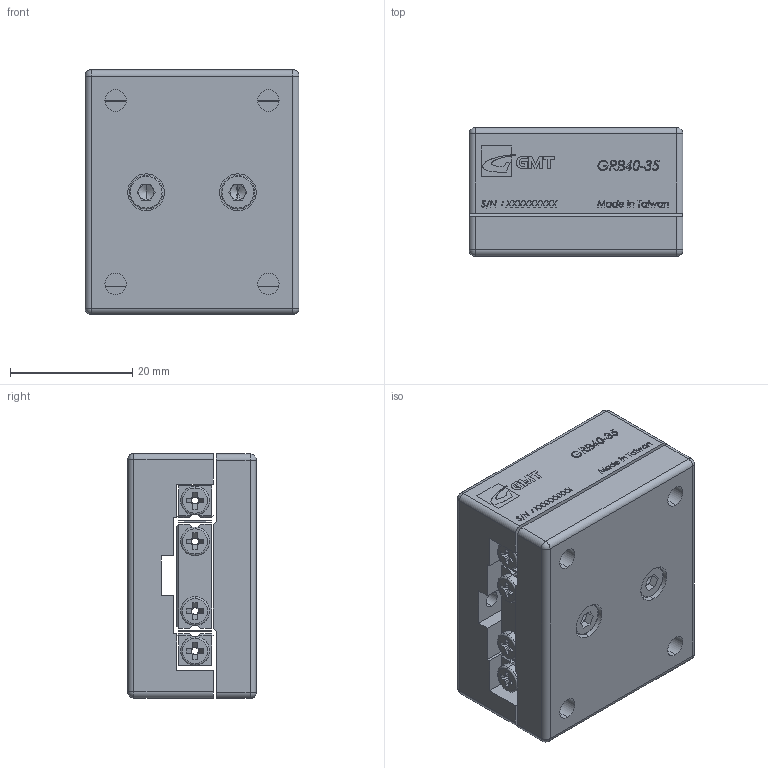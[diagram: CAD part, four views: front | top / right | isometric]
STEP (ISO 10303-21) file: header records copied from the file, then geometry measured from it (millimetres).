
FILE_DESCRIPTION (( 'STEP AP203' ), '1' );
FILE_NAME ('GRB40-35.STEP', '2012-10-19T05:13:40', ( '123' ), ( '' ), 'SwSTEP 2.0', 'SolidWorks 2012', '' );
FILE_SCHEMA (( 'CONFIG_CONTROL_DESIGN' ));
Length unit declared in the file: millimetre
Products named in the file (1): GRB40-35
Bounding box: 35 x 21 x 40.07 mm (x, y, z)
Surface area: 11431.5 mm2 (no closed solid volume)
Topology: 0 solids, 58 shells, 537 faces, 2422 edges, 1922 vertices
Faces by surface type: plane 354, cylinder 72, cone 48, torus 44, bspline 11, sphere 8
Entity records: 28544 total; most frequent: CARTESIAN_POINT 9841, DIRECTION 3538, ORIENTED_EDGE 3388, EDGE_CURVE 2402, VERTEX_POINT 1922, LINE 1544, VECTOR 1544, AXIS2_PLACEMENT_3D 997
